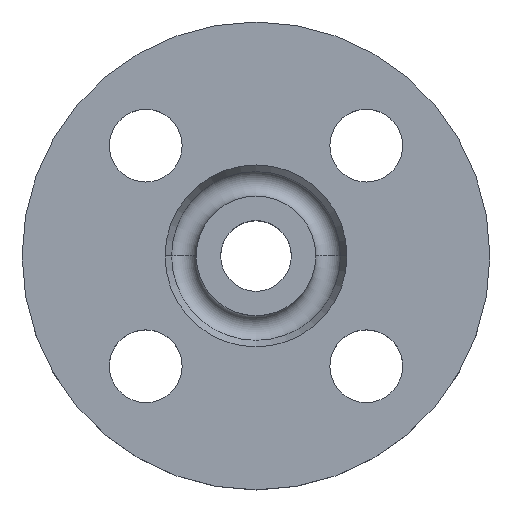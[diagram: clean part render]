
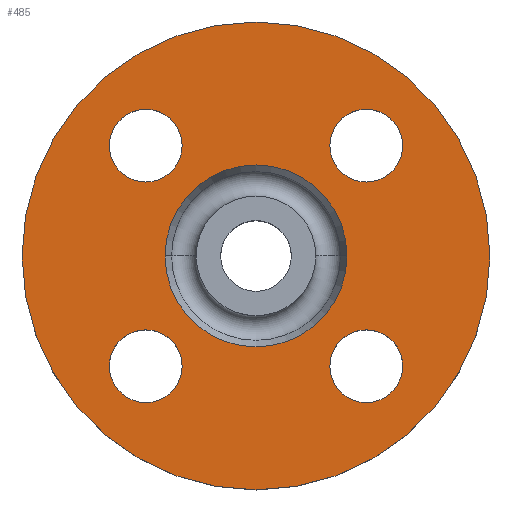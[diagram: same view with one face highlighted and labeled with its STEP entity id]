
A CAD part, top view. The second image highlights one B-rep face of the part: STEP entity #485.
In plain terms, the highlighted planar face has unit normal (0, 0, 1).
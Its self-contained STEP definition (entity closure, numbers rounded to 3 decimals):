
#1 = DIRECTION ( 'NONE',  ( 1., 0., 0. ) ) ;
#2 = DIRECTION ( 'NONE',  ( 0., 0., -1. ) ) ;
#7 = CARTESIAN_POINT ( 'NONE',  ( 21.213, -21.213, -2. ) ) ;
#16 = DIRECTION ( 'NONE',  ( 1., 0., 0. ) ) ;
#22 = DIRECTION ( 'NONE',  ( 0., 0., 1. ) ) ;
#23 = DIRECTION ( 'NONE',  ( 1., 0., 0. ) ) ;
#26 = FACE_OUTER_BOUND ( 'NONE', #565, .T. ) ;
#28 = PLANE ( 'NONE',  #415 ) ;
#29 = CARTESIAN_POINT ( 'NONE',  ( 45., 0., -2. ) ) ;
#32 = AXIS2_PLACEMENT_3D ( 'NONE', #84, #62, #16 ) ;
#39 = FACE_BOUND ( 'NONE', #540, .T. ) ;
#44 = DIRECTION ( 'NONE',  ( -1., 0., 0. ) ) ;
#46 = DIRECTION ( 'NONE',  ( 0., 0., -1. ) ) ;
#53 = EDGE_CURVE ( 'NONE', #644, #698, #407, .T. ) ;
#54 = AXIS2_PLACEMENT_3D ( 'NONE', #7, #2, #1 ) ;
#57 = CARTESIAN_POINT ( 'NONE',  ( 0., 0., -2. ) ) ;
#62 = DIRECTION ( 'NONE',  ( 0., 0., -1. ) ) ;
#79 = FACE_BOUND ( 'NONE', #542, .T. ) ;
#84 = CARTESIAN_POINT ( 'NONE',  ( 21.213, -21.213, -2. ) ) ;
#86 = CIRCLE ( 'NONE', #54, 7. ) ;
#93 = DIRECTION ( 'NONE',  ( 1., 0., 0. ) ) ;
#98 = EDGE_CURVE ( 'NONE', #562, #835, #493, .T. ) ;
#110 = CIRCLE ( 'NONE', #417, 7. ) ;
#111 = CARTESIAN_POINT ( 'NONE',  ( 45., 0., -2. ) ) ;
#124 = FACE_BOUND ( 'NONE', #607, .T. ) ;
#126 = AXIS2_PLACEMENT_3D ( 'NONE', #333, #510, #399 ) ;
#132 = CARTESIAN_POINT ( 'NONE',  ( -17.5, 0., -2. ) ) ;
#140 = EDGE_CURVE ( 'NONE', #733, #586, #449, .T. ) ;
#154 = CARTESIAN_POINT ( 'NONE',  ( -45., 0., -2. ) ) ;
#157 = DIRECTION ( 'NONE',  ( 0., 0., -1. ) ) ;
#168 = CIRCLE ( 'NONE', #199, 45. ) ;
#199 = AXIS2_PLACEMENT_3D ( 'NONE', #57, #46, #44 ) ;
#214 = AXIS2_PLACEMENT_3D ( 'NONE', #534, #301, #93 ) ;
#230 = CIRCLE ( 'NONE', #765, 17.5 ) ;
#270 = CIRCLE ( 'NONE', #278, 7. ) ;
#278 = AXIS2_PLACEMENT_3D ( 'NONE', #383, #404, #408 ) ;
#297 = CARTESIAN_POINT ( 'NONE',  ( 28.213, -21.213, -2. ) ) ;
#301 = DIRECTION ( 'NONE',  ( 0., 0., -1. ) ) ;
#310 = EDGE_CURVE ( 'NONE', #698, #644, #270, .T. ) ;
#326 = AXIS2_PLACEMENT_3D ( 'NONE', #487, #425, #667 ) ;
#332 = CARTESIAN_POINT ( 'NONE',  ( -14.213, 21.213, -2. ) ) ;
#333 = CARTESIAN_POINT ( 'NONE',  ( -21.213, 21.213, -2. ) ) ;
#340 = DIRECTION ( 'NONE',  ( 0., 0., -1. ) ) ;
#341 = DIRECTION ( 'NONE',  ( 1., 0., 0. ) ) ;
#342 = FACE_BOUND ( 'NONE', #566, .T. ) ;
#374 = FACE_BOUND ( 'NONE', #810, .T. ) ;
#381 = CIRCLE ( 'NONE', #214, 7. ) ;
#383 = CARTESIAN_POINT ( 'NONE',  ( 21.213, 21.213, -2. ) ) ;
#393 = CARTESIAN_POINT ( 'NONE',  ( -28.213, -21.213, -2. ) ) ;
#395 = EDGE_CURVE ( 'NONE', #829, #824, #723, .T. ) ;
#399 = DIRECTION ( 'NONE',  ( 1., 0., 0. ) ) ;
#404 = DIRECTION ( 'NONE',  ( 0., 0., -1. ) ) ;
#407 = CIRCLE ( 'NONE', #475, 7. ) ;
#408 = DIRECTION ( 'NONE',  ( 1., 0., 0. ) ) ;
#413 = EDGE_CURVE ( 'NONE', #586, #733, #168, .T. ) ;
#415 = AXIS2_PLACEMENT_3D ( 'NONE', #29, #22, #23 ) ;
#417 = AXIS2_PLACEMENT_3D ( 'NONE', #459, #340, #341 ) ;
#425 = DIRECTION ( 'NONE',  ( 0., 0., -1. ) ) ;
#444 = CARTESIAN_POINT ( 'NONE',  ( -28.213, 21.213, -2. ) ) ;
#449 = CIRCLE ( 'NONE', #454, 45. ) ;
#454 = AXIS2_PLACEMENT_3D ( 'NONE', #888, #890, #891 ) ;
#458 = CARTESIAN_POINT ( 'NONE',  ( -14.213, -21.213, -2. ) ) ;
#459 = CARTESIAN_POINT ( 'NONE',  ( -21.213, -21.213, -2. ) ) ;
#472 = EDGE_CURVE ( 'NONE', #834, #817, #381, .T. ) ;
#475 = AXIS2_PLACEMENT_3D ( 'NONE', #860, #861, #862 ) ;
#485 = ADVANCED_FACE ( 'NONE', ( #39, #342, #374, #124, #79, #26 ), #28, .T. ) ;
#487 = CARTESIAN_POINT ( 'NONE',  ( -21.213, 21.213, -2. ) ) ;
#493 = CIRCLE ( 'NONE', #508, 17.5 ) ;
#498 = EDGE_CURVE ( 'NONE', #824, #829, #86, .T. ) ;
#502 = CARTESIAN_POINT ( 'NONE',  ( 28.213, 21.213, -2. ) ) ;
#508 = AXIS2_PLACEMENT_3D ( 'NONE', #883, #884, #885 ) ;
#510 = DIRECTION ( 'NONE',  ( 0., 0., -1. ) ) ;
#534 = CARTESIAN_POINT ( 'NONE',  ( -21.213, -21.213, -2. ) ) ;
#540 = EDGE_LOOP ( 'NONE', ( #677, #678 ) ) ;
#542 = EDGE_LOOP ( 'NONE', ( #685, #689 ) ) ;
#562 = VERTEX_POINT ( 'NONE', #132 ) ;
#563 = VERTEX_POINT ( 'NONE', #332 ) ;
#565 = EDGE_LOOP ( 'NONE', ( #690, #692 ) ) ;
#566 = EDGE_LOOP ( 'NONE', ( #679, #680 ) ) ;
#586 = VERTEX_POINT ( 'NONE', #154 ) ;
#588 = DIRECTION ( 'NONE',  ( -1., 0., 0. ) ) ;
#607 = EDGE_LOOP ( 'NONE', ( #683, #684 ) ) ;
#644 = VERTEX_POINT ( 'NONE', #502 ) ;
#658 = EDGE_CURVE ( 'NONE', #830, #563, #781, .T. ) ;
#663 = EDGE_CURVE ( 'NONE', #563, #830, #699, .T. ) ;
#667 = DIRECTION ( 'NONE',  ( 1., 0., 0. ) ) ;
#677 = ORIENTED_EDGE ( 'NONE', *, *, #395, .T. ) ;
#678 = ORIENTED_EDGE ( 'NONE', *, *, #498, .T. ) ;
#679 = ORIENTED_EDGE ( 'NONE', *, *, #472, .T. ) ;
#680 = ORIENTED_EDGE ( 'NONE', *, *, #815, .T. ) ;
#681 = ORIENTED_EDGE ( 'NONE', *, *, #663, .T. ) ;
#682 = ORIENTED_EDGE ( 'NONE', *, *, #658, .T. ) ;
#683 = ORIENTED_EDGE ( 'NONE', *, *, #53, .T. ) ;
#684 = ORIENTED_EDGE ( 'NONE', *, *, #310, .T. ) ;
#685 = ORIENTED_EDGE ( 'NONE', *, *, #865, .T. ) ;
#689 = ORIENTED_EDGE ( 'NONE', *, *, #98, .T. ) ;
#690 = ORIENTED_EDGE ( 'NONE', *, *, #140, .F. ) ;
#692 = ORIENTED_EDGE ( 'NONE', *, *, #413, .F. ) ;
#698 = VERTEX_POINT ( 'NONE', #792 ) ;
#699 = CIRCLE ( 'NONE', #126, 7. ) ;
#723 = CIRCLE ( 'NONE', #32, 7. ) ;
#733 = VERTEX_POINT ( 'NONE', #111 ) ;
#765 = AXIS2_PLACEMENT_3D ( 'NONE', #841, #157, #588 ) ;
#781 = CIRCLE ( 'NONE', #326, 7. ) ;
#792 = CARTESIAN_POINT ( 'NONE',  ( 14.213, 21.213, -2. ) ) ;
#810 = EDGE_LOOP ( 'NONE', ( #681, #682 ) ) ;
#813 = CARTESIAN_POINT ( 'NONE',  ( 14.213, -21.213, -2. ) ) ;
#815 = EDGE_CURVE ( 'NONE', #817, #834, #110, .T. ) ;
#817 = VERTEX_POINT ( 'NONE', #393 ) ;
#818 = CARTESIAN_POINT ( 'NONE',  ( 17.5, 0., -2. ) ) ;
#824 = VERTEX_POINT ( 'NONE', #813 ) ;
#829 = VERTEX_POINT ( 'NONE', #297 ) ;
#830 = VERTEX_POINT ( 'NONE', #444 ) ;
#834 = VERTEX_POINT ( 'NONE', #458 ) ;
#835 = VERTEX_POINT ( 'NONE', #818 ) ;
#841 = CARTESIAN_POINT ( 'NONE',  ( 0., 0., -2. ) ) ;
#860 = CARTESIAN_POINT ( 'NONE',  ( 21.213, 21.213, -2. ) ) ;
#861 = DIRECTION ( 'NONE',  ( 0., 0., -1. ) ) ;
#862 = DIRECTION ( 'NONE',  ( 1., 0., 0. ) ) ;
#865 = EDGE_CURVE ( 'NONE', #835, #562, #230, .T. ) ;
#883 = CARTESIAN_POINT ( 'NONE',  ( 0., 0., -2. ) ) ;
#884 = DIRECTION ( 'NONE',  ( 0., 0., -1. ) ) ;
#885 = DIRECTION ( 'NONE',  ( -1., 0., 0. ) ) ;
#888 = CARTESIAN_POINT ( 'NONE',  ( 0., 0., -2. ) ) ;
#890 = DIRECTION ( 'NONE',  ( 0., 0., -1. ) ) ;
#891 = DIRECTION ( 'NONE',  ( -1., 0., 0. ) ) ;
